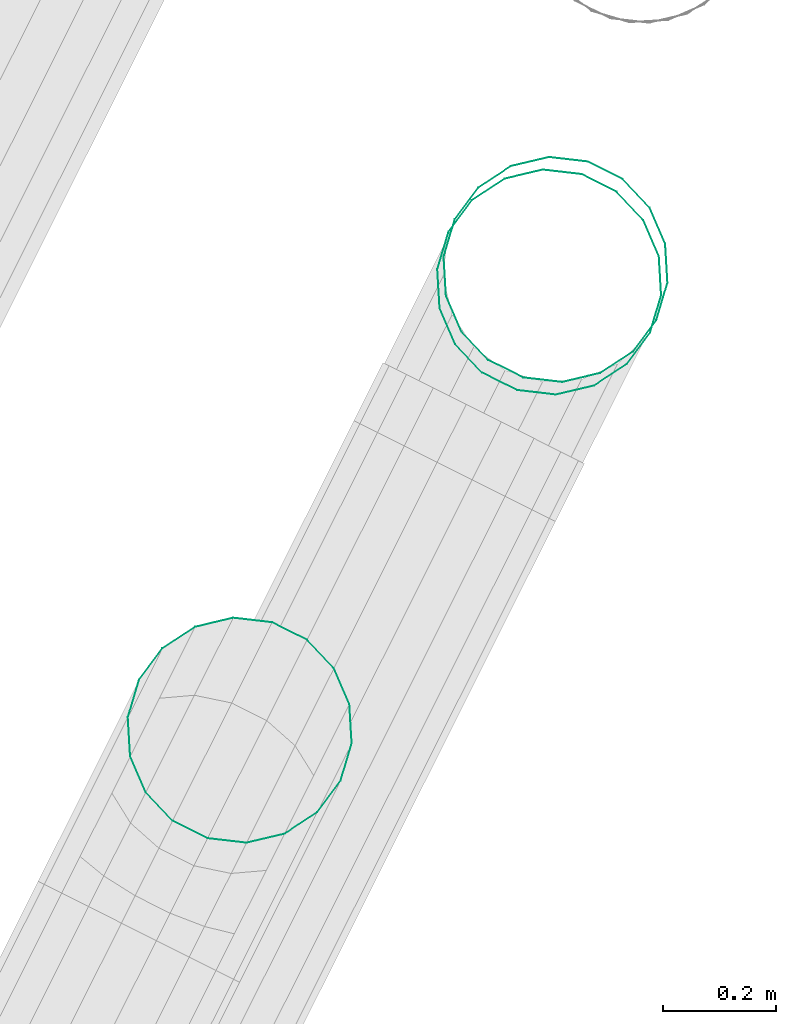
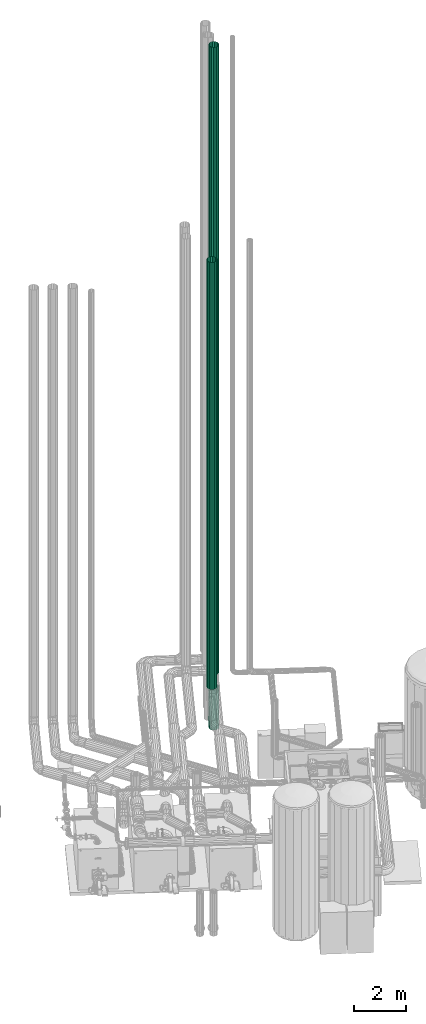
# One storey, part 26 of 206: 3 flow segments.
"""IFC2X3 building model written with IfcOpenShell, lengths in metres."""

from ifc_helpers import new_model, si_unit, derived_unit, direction, frame, origin, place, context, subcontext, project, spatial, face_set, surface_model, source, transform, mapped, material, type_object, type_shapes, element, save


model = new_model("IFC2X3")

# Units and contexts
model_context = context("Model", 3, precision=5.2338327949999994e-05, world=origin(), true_north=direction((0.0, 1.0)))
body_context = subcontext(model_context, "Body", "Model", "MODEL_VIEW")
ifc_project = project(units=[si_unit("LENGTHUNIT", "METRE"), si_unit("AREAUNIT", "SQUARE_METRE"), si_unit("VOLUMEUNIT", "CUBIC_METRE"), si_unit("MASSUNIT", "GRAM", prefix="KILO"), si_unit("PLANEANGLEUNIT", "RADIAN"), derived_unit("THERMALTRANSMITTANCEUNIT", [(si_unit("MASSUNIT", "GRAM", prefix="KILO"), 1), (si_unit("THERMODYNAMICTEMPERATUREUNIT", "KELVIN"), -1), (si_unit("TIMEUNIT", "SECOND"), -3)])], contexts=[model_context])

# Site, building, storey
site_placement = place(None, frame((0.0, 0.0, 0.0), z_axis=(0.0, 0.0, 1.0), x_axis=(0.8939966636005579, -0.4480736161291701, 0.0)))
site = spatial("IfcSite", under=ifc_project, at=site_placement, Name="Default", CompositionType="ELEMENT")
building_placement = place(site_placement, origin())
building = spatial("IfcBuilding", under=site, at=building_placement, CompositionType="ELEMENT")
storey_placement = place(building_placement, origin())
storey = spatial("IfcBuildingStorey", under=building, at=storey_placement, Name="Erdgeschoss", CompositionType="ELEMENT", Elevation=0.0)

# Flow segments
ifc_material = material(Name="IfcSurfaceStyle #251447")
distribution_element_type_1 = type_object("IfcDistributionElementType", Name="Wickelfalzrohr 268873:Wickelfalzrohr 268873", material=ifc_material)
shared_shape_1 = source(origin(), body_context, "Body", "SurfaceModel", [
    surface_model("IfcFaceBasedSurfaceModel", [(26.328825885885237, 15.746013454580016, 2.599999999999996), (26.340887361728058, 15.677609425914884, 2.599999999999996), (26.340887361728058, 15.677609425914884, 32.0), (26.328825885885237, 15.746013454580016, 32.0), (26.375616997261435, 15.617455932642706, 2.599999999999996), (26.375616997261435, 15.617455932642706, 32.0), (26.42882588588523, 15.572808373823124, 2.599999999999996), (26.42882588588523, 15.572808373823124, 32.0), (26.494096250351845, 15.549051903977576, 2.599999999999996), (26.494096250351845, 15.549051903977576, 32.0), (26.563555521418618, 15.549051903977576, 2.599999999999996), (26.563555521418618, 15.549051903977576, 32.0), (26.62882588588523, 15.572808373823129, 2.599999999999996), (26.62882588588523, 15.572808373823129, 32.0), (26.682034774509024, 15.617455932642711, 2.599999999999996), (26.682034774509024, 15.617455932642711, 32.0), (26.716764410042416, 15.677609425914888, 2.599999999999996), (26.716764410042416, 15.677609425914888, 32.0), (26.728825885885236, 15.746013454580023, 2.599999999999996), (26.728825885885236, 15.746013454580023, 32.0), (26.71676441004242, 15.814417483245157, 2.599999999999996), (26.71676441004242, 15.814417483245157, 32.0), (26.68203477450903, 15.874570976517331, 2.599999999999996), (26.68203477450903, 15.874570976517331, 32.0), (26.628825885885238, 15.91921853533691, 2.599999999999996), (26.628825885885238, 15.91921853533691, 32.0), (26.56355552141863, 15.942975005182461, 2.599999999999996), (26.56355552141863, 15.942975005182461, 32.0), (26.494096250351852, 15.942975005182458, 2.599999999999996), (26.494096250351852, 15.942975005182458, 32.0), (26.428825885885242, 15.919218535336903, 2.599999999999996), (26.428825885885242, 15.919218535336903, 32.0), (26.37561699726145, 15.874570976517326, 2.599999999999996), (26.37561699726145, 15.874570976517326, 32.0), (26.34088736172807, 15.814417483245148, 2.599999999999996), (26.34088736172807, 15.814417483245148, 32.0)], [face_set([[[0, 1, 2, 3]], [[1, 4, 5, 2]], [[4, 6, 7, 5]], [[6, 8, 9, 7]], [[8, 10, 11, 9]], [[10, 12, 13, 11]], [[12, 14, 15, 13]], [[14, 16, 17, 15]], [[16, 18, 19, 17]], [[18, 20, 21, 19]], [[20, 22, 23, 21]], [[22, 24, 25, 23]], [[24, 26, 27, 25]], [[26, 28, 29, 27]], [[28, 30, 31, 29]], [[30, 32, 33, 31]], [[32, 34, 35, 33]], [[34, 0, 3, 35]]])]),
])
type_shapes(distribution_element_type_1, [shared_shape_1])
flow_segment_1_placement = place(storey_placement, origin())
element("IfcFlowSegment", 1, at=flow_segment_1_placement, inside=storey, type_object=distribution_element_type_1, material=ifc_material, Name="Wickelfalzrohr", ObjectType="Wickelfalzrohr", context=body_context, shape_type="MappedRepresentation", body=[
    mapped(shared_shape_1, transform((0.0, 0.0, 0.0), scale=1.0)),
])
distribution_element_type_2 = type_object("IfcDistributionElementType", Name="Wickelfalzrohr 294613:Wickelfalzrohr 294613", material=ifc_material)
shared_shape_2 = source(origin(), body_context, "Body", "SurfaceModel", [
    surface_model("IfcFaceBasedSurfaceModel", [(26.194161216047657, 14.788691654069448, 2.6), (26.20622269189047, 14.720287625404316, 2.6), (26.20622269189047, 14.720287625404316, 22.599999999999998), (26.194161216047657, 14.78869165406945, 22.599999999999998), (26.240952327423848, 14.660134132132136, 2.6), (26.24095232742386, 14.660134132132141, 22.599999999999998), (26.29416121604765, 14.615486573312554, 2.6), (26.294161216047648, 14.615486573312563, 22.599999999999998), (26.359431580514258, 14.591730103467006, 2.6), (26.359431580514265, 14.59173010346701, 22.599999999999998), (26.428890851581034, 14.591730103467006, 2.6), (26.428890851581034, 14.591730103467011, 22.599999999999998), (26.494161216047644, 14.615486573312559, 2.6), (26.494161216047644, 14.615486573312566, 22.599999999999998), (26.547370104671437, 14.660134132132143, 2.6), (26.547370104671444, 14.66013413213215, 22.599999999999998), (26.582099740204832, 14.720287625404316, 2.6), (26.582099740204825, 14.720287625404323, 22.599999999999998), (26.594161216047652, 14.788691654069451, 2.6), (26.594161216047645, 14.78869165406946, 22.599999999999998), (26.582099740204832, 14.857095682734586, 2.6), (26.58209974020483, 14.857095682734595, 22.599999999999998), (26.54737010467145, 14.917249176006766, 2.6), (26.54737010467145, 14.917249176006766, 22.599999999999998), (26.494161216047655, 14.96189673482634, 2.6), (26.494161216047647, 14.96189673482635, 22.599999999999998), (26.42889085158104, 14.985653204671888, 2.6), (26.42889085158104, 14.985653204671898, 22.599999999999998), (26.359431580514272, 14.985653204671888, 2.6), (26.359431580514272, 14.985653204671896, 22.599999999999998), (26.294161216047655, 14.961896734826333, 2.6), (26.29416121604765, 14.96189673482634, 22.599999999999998), (26.240952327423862, 14.917249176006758, 2.6), (26.240952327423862, 14.917249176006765, 22.599999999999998), (26.206222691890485, 14.857095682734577, 2.6), (26.206222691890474, 14.857095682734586, 22.599999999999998)], [face_set([[[0, 1, 2, 3]], [[1, 4, 5, 2]], [[4, 6, 7, 5]], [[6, 8, 9, 7]], [[8, 10, 11, 9]], [[10, 12, 13, 11]], [[12, 14, 15, 13]], [[14, 16, 17, 15]], [[16, 18, 19, 17]], [[18, 20, 21, 19]], [[20, 22, 23, 21]], [[22, 24, 25, 23]], [[24, 26, 27, 25]], [[26, 28, 29, 27]], [[28, 30, 31, 29]], [[30, 32, 33, 31]], [[32, 34, 35, 33]], [[34, 0, 3, 35]]])]),
])
type_shapes(distribution_element_type_2, [shared_shape_2])
flow_segment_2_placement = place(storey_placement, origin())
element("IfcFlowSegment", 2, at=flow_segment_2_placement, inside=storey, type_object=distribution_element_type_2, material=ifc_material, Name="Wickelfalzrohr", ObjectType="Wickelfalzrohr", context=body_context, shape_type="MappedRepresentation", body=[
    mapped(shared_shape_2, transform((0.0, 0.0, 0.0), scale=1.0)),
])
distribution_element_type_3 = type_object("IfcDistributionElementType", Name="Wickelfalzrohr 623296:Wickelfalzrohr 623296", material=ifc_material)
shared_shape_3 = source(origin(), body_context, "Body", "SurfaceModel", [
    surface_model("IfcFaceBasedSurfaceModel", [(26.328825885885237, 15.771013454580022, 1.915), (26.340887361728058, 15.839417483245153, 1.915), (26.34088736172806, 15.839417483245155, 0.0), (26.32882588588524, 15.771013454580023, 0.0), (26.37561699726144, 15.899570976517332, 1.915), (26.37561699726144, 15.899570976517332, 0.0), (26.42882588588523, 15.944218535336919, 1.915), (26.428825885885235, 15.944218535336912, 0.0), (26.49409625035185, 15.967975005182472, 1.915), (26.49409625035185, 15.967975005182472, 0.0), (26.563555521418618, 15.967975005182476, 1.915), (26.563555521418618, 15.967975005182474, 0.0), (26.628825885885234, 15.944218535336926, 1.915), (26.628825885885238, 15.944218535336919, 0.0), (26.682034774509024, 15.899570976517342, 1.915), (26.682034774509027, 15.89957097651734, 0.0), (26.716764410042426, 15.839417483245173, 1.915), (26.716764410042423, 15.839417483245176, 0.0), (26.728825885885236, 15.771013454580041, 1.915), (26.728825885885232, 15.771013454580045, 0.0), (26.716764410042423, 15.702609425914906, 1.915), (26.71676441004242, 15.702609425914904, 0.0), (26.682034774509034, 15.642455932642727, 1.915), (26.682034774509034, 15.64245593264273, 0.0), (26.628825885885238, 15.597808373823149, 1.915), (26.62882588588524, 15.597808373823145, 0.0), (26.563555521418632, 15.574051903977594, 1.915), (26.563555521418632, 15.574051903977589, 0.0), (26.494096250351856, 15.574051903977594, 1.915), (26.494096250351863, 15.574051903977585, 0.0), (26.428825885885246, 15.597808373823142, 1.915), (26.42882588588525, 15.597808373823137, 0.0), (26.37561699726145, 15.642455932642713, 1.915), (26.37561699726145, 15.64245593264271, 0.0), (26.34088736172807, 15.702609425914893, 1.915), (26.34088736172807, 15.702609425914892, 0.0)], [face_set([[[0, 1, 2, 3]], [[1, 4, 5, 2]], [[4, 6, 7, 5]], [[6, 8, 9, 7]], [[8, 10, 11, 9]], [[10, 12, 13, 11]], [[12, 14, 15, 13]], [[14, 16, 17, 15]], [[16, 18, 19, 17]], [[18, 20, 21, 19]], [[20, 22, 23, 21]], [[22, 24, 25, 23]], [[24, 26, 27, 25]], [[26, 28, 29, 27]], [[28, 30, 31, 29]], [[30, 32, 33, 31]], [[32, 34, 35, 33]], [[34, 0, 3, 35]]])]),
])
type_shapes(distribution_element_type_3, [shared_shape_3])
flow_segment_3_placement = place(storey_placement, origin())
element("IfcFlowSegment", 3, at=flow_segment_3_placement, inside=storey, type_object=distribution_element_type_3, material=ifc_material, Name="Wickelfalzrohr", ObjectType="Wickelfalzrohr", context=body_context, shape_type="MappedRepresentation", body=[
    mapped(shared_shape_3, transform((0.0, 0.0, 0.0), scale=1.0)),
])

save(model, "model.ifc")
